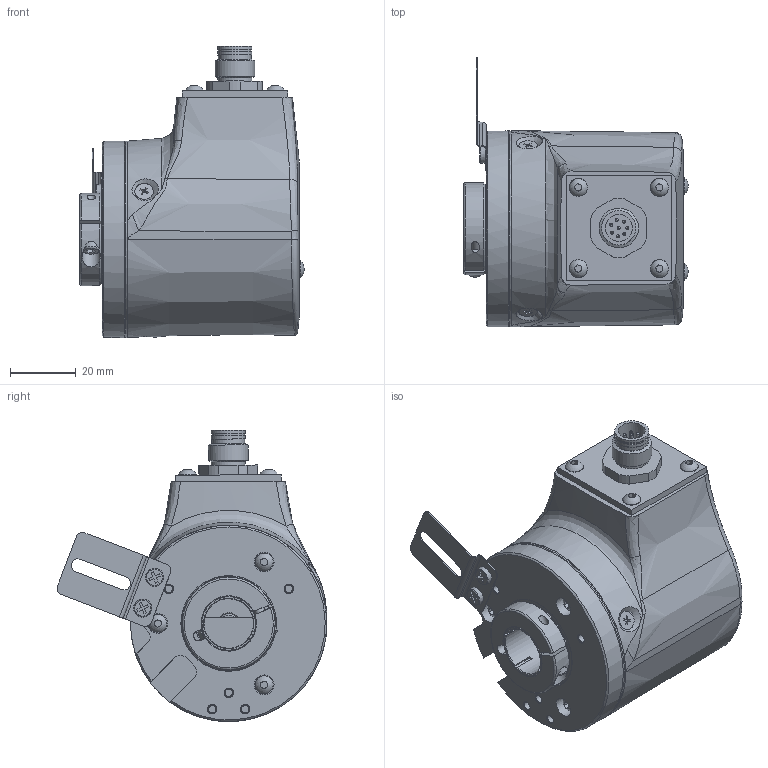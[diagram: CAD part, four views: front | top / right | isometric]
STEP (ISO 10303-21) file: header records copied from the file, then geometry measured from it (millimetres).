
FILE_DESCRIPTION(/* description */ ('Unknown'),/* implementation_level */ '2;1');
FILE_NAME(/* name */ 'EAL_EAML_63_F_M12R',/* time_stamp */ '2018-11-12T13:46:51+01:00',/* author */ ('Unknown'),/* organization */ ('Unknown'),/* preprocessor_version */ 'ST-DEVELOPER v16.7',/* originating_system */ 'DEX',/* authorisation */ $);
FILE_SCHEMA (('AUTOMOTIVE_DESIGN {1 0 10303 214 3 1 1}'));
Length unit declared in the file: millimetre
Products named in the file (1): EAL_EAML_63_F_M12R
Bounding box: 68.04 x 81.76 x 88.27 mm (x, y, z)
Volume: 96884.3 mm3; surface area: 56213.5 mm2
Topology: 1 solids, 42 shells, 1699 faces, 4510 edges, 2976 vertices
Faces by surface type: plane 1149, cylinder 357, cone 134, torus 42, bspline 17
Full cylindrical faces by diameter (mm): 0.9 x16, 1.5 x8, 2.459 x20, 2.5 x2, 3 x13, 3.2 x1, 3.242 x1, 3.4 x3, 3.5 x2, 4 x3, 4.98 x1, 5 x3, 5.6 x3, 6 x6, 6.5 x2, 7.98 x1, 8 x3, 8.25 x1, 8.772 x1, 10 x6, 10.4 x3, 11 x1, 12 x1, 12.4 x1, 13 x2, 14.53 x1, 15 x1, 15.2 x1, 16 x1, 16.8 x1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
Entity records: 63153 total; most frequent: CARTESIAN_POINT 10712, DIRECTION 8153, ORIENTED_EDGE 8072, EDGE_CURVE 4036, LINE 2851, VECTOR 2851, VERTEX_POINT 2815, AXIS2_PLACEMENT_3D 2651
